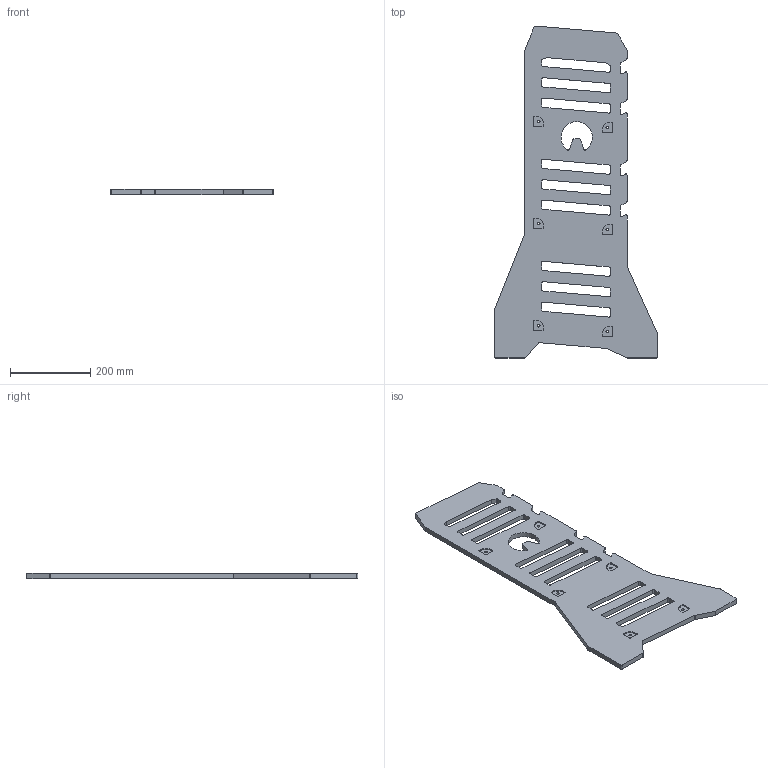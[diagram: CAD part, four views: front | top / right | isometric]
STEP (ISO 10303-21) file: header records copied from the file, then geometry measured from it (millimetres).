
FILE_DESCRIPTION(/* description */ (''),/* implementation_level */ '2;1');
FILE_NAME(/* name */ 'Racko - Panneau gauche',/* time_stamp */ '2024-12-03T19:38:40-05:00',/* author */ (''),/* organization */ (''),/* preprocessor_version */ 'ST-DEVELOPER v19.2',/* originating_system */ 'Rhino 8.13',/* authorisation */ '');
FILE_SCHEMA (('CONFIG_CONTROL_DESIGN'));
Length unit declared in the file: millimetre
Products named in the file (1): Document
Bounding box: 406.4 x 826.66 x 12.7 mm (x, y, z)
Volume: 2353632.5 mm3; surface area: 453364.2 mm2
Topology: 1 solids, 1 shells, 222 faces, 630 edges, 416 vertices
Faces by surface type: cylinder 107, plane 102, bspline 13
Entity records: 7500 total; most frequent: CARTESIAN_POINT 2261, ORIENTED_EDGE 1260, DIRECTION 665, EDGE_CURVE 630, AXIS2_PLACEMENT_3D 437, VERTEX_POINT 416, B_SPLINE_CURVE_WITH_KNOTS 342, EDGE_LOOP 260
